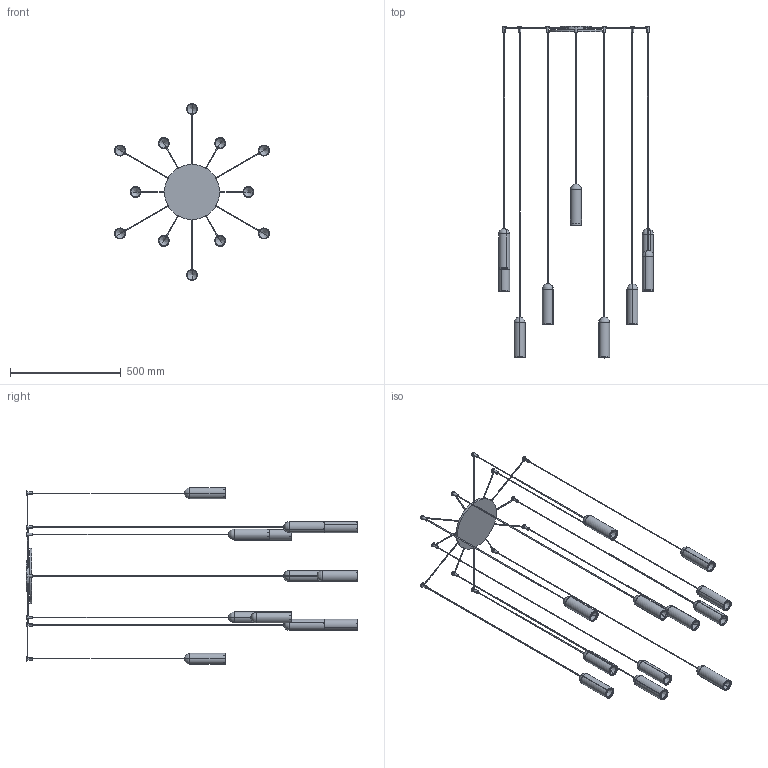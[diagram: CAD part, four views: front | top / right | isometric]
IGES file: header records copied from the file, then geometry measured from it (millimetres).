
Start section: SolidWorks IGES file using analytic representation for surfaces
Global section: file name: Y:\eforma\TECNICO\SOLIDWORKS\E-FORMA\09-LAMPADE\NANUM\08 modelli 3D web\NAN12-00-NANUM 12 ROSONE CENTRALE.IGS; native system: SolidWorks 2022; preprocessor: SolidWorks 2022; author: eforma.tech; date: 240801.144535; units: millimetre
Bounding box: 699.52 x 1500 x 800 mm (x, y, z)
Volume: 1799094.5 mm3; surface area: 1053755.5 mm2
Topology: 37 solids, 37 shells, 456 faces, 894 edges, 513 vertices
Faces by surface type: revolution 367, plane 89
